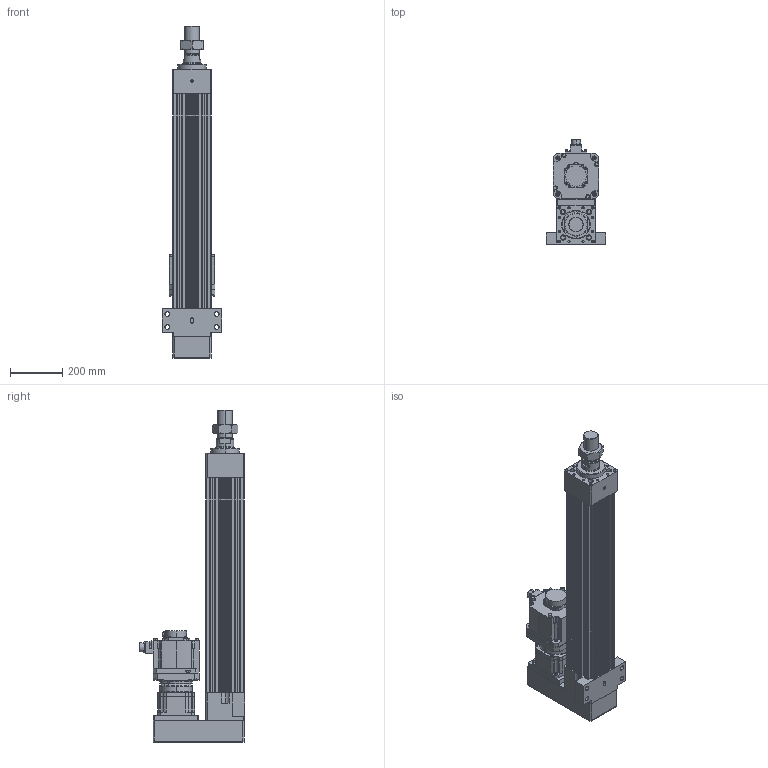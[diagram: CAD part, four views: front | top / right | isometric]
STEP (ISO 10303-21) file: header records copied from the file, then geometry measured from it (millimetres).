
FILE_DESCRIPTION (( 'STEP AP203' ), '1' );
FILE_NAME ('HES150NS(HS)-P550-W035G00-M-FFC.STEP', '2023-01-31T09:52:23', ( 'tms' ), ( '' ), 'SwSTEP 2.0', 'SolidWorks 2013', '' );
FILE_SCHEMA (( 'CONFIG_CONTROL_DESIGN' ));
Length unit declared in the file: millimetre
Products named in the file (9): P0403500801; P1301500001; HES150NS(HS)-P550-W035G00-M-FFC; M56X2.0P; HES150 ROD M ST550; HES150-P550-G142-FFC; HG-SR352; AB142-003[HG-SR352]; AB1421
Assembly tree (8 placements, depth 3):
  HES150NS(HS)-P550-W035G00-M-FFC
    HES150-P550-G142-FFC
    HES150 ROD M ST550
    M56X2.0P
    AB142-003[HG-SR352]
      AB1421
      P1301500001
      P0403500801
    HG-SR352
Bounding box: 230 x 403.85 x 1276 mm (x, y, z)
Volume: 20843791.3 mm3; surface area: 2104056 mm2
Topology: 4 solids, 18 shells, 1470 faces, 3831 edges, 2471 vertices
Faces by surface type: cylinder 693, plane 529, cone 166, bspline 76, torus 6
Entity records: 53945 total; most frequent: CARTESIAN_POINT 16549, DIRECTION 7839, ORIENTED_EDGE 7520, EDGE_CURVE 3782, AXIS2_PLACEMENT_3D 2986, VERTEX_POINT 2471, VECTOR 1867, LINE 1867
